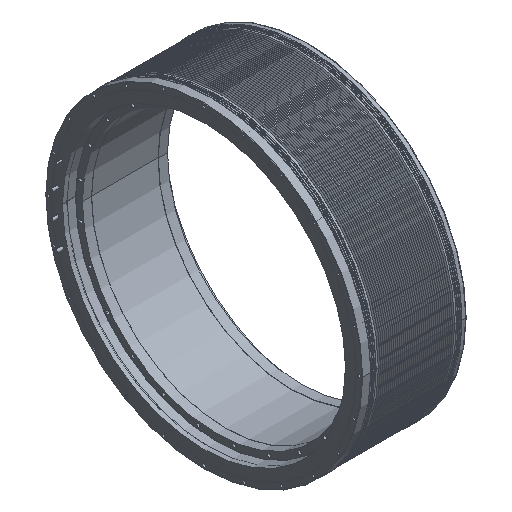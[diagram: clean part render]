
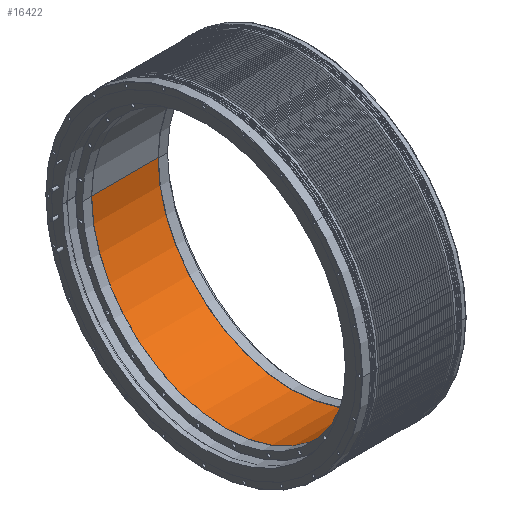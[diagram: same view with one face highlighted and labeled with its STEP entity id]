
A CAD part, isometric view. The second image highlights one B-rep face of the part: STEP entity #16422.
In plain terms, the highlighted cylindrical face has radius 435.5 mm (diameter 871 mm), a partial arc.
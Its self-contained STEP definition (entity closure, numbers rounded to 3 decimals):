
#14006=DIRECTION('',(1.,0.,0.));
#14007=VECTOR('',#14006,216.);
#14008=CARTESIAN_POINT('',(-108.,435.5,0.));
#14009=LINE('',#14008,#14007);
#14010=DIRECTION('',(1.,0.,0.));
#14011=VECTOR('',#14010,216.);
#14012=CARTESIAN_POINT('',(-108.,-435.5,0.));
#14013=LINE('',#14012,#14011);
#14014=CARTESIAN_POINT('',(-108.,0.,0.));
#14015=DIRECTION('',(-1.,0.,0.));
#14016=DIRECTION('',(0.,1.,0.));
#14017=AXIS2_PLACEMENT_3D('',#14014,#14015,#14016);
#14019=CARTESIAN_POINT('',(108.,0.,0.));
#14020=DIRECTION('',(-1.,0.,0.));
#14021=DIRECTION('',(0.,1.,0.));
#14022=AXIS2_PLACEMENT_3D('',#14019,#14020,#14021);
#15294=CARTESIAN_POINT('',(-108.,435.5,0.));
#15295=CARTESIAN_POINT('',(108.,435.5,0.));
#15296=VERTEX_POINT('',#15294);
#15297=VERTEX_POINT('',#15295);
#15322=CARTESIAN_POINT('',(-108.,-435.5,0.));
#15323=CARTESIAN_POINT('',(108.,-435.5,0.));
#15324=VERTEX_POINT('',#15322);
#15325=VERTEX_POINT('',#15323);
#16410=CARTESIAN_POINT('',(-151.8,0.,0.));
#16411=DIRECTION('',(1.,0.,0.));
#16412=DIRECTION('',(0.,-1.,0.));
#16413=AXIS2_PLACEMENT_3D('',#16410,#16411,#16412);
#16414=CYLINDRICAL_SURFACE('',#16413,435.5);
#16415=ORIENTED_EDGE('',*,*,#16400,.T.);
#16417=ORIENTED_EDGE('',*,*,#16416,.T.);
#16418=ORIENTED_EDGE('',*,*,#16403,.F.);
#16419=ORIENTED_EDGE('',*,*,#16386,.F.);
#16420=EDGE_LOOP('',(#16415,#16417,#16418,#16419));
#16421=FACE_OUTER_BOUND('',#16420,.F.);
#16422=ADVANCED_FACE('',(#16421),#16414,.F.);
#14018=CIRCLE('',#14017,435.5);
#14023=CIRCLE('',#14022,435.5);
#16386=EDGE_CURVE('',#15296,#15324,#14018,.T.);
#16400=EDGE_CURVE('',#15296,#15297,#14009,.T.);
#16403=EDGE_CURVE('',#15324,#15325,#14013,.T.);
#16416=EDGE_CURVE('',#15297,#15325,#14023,.T.);
